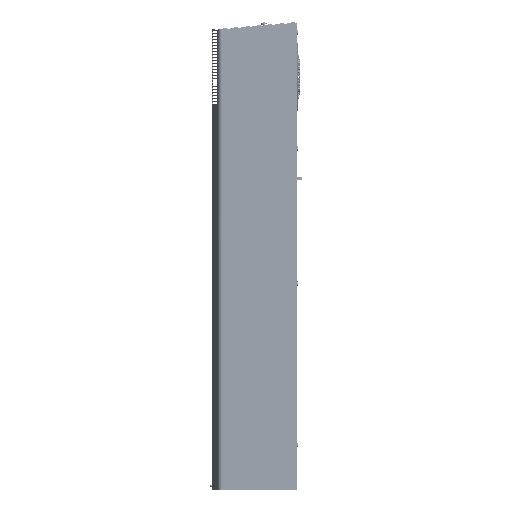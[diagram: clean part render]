
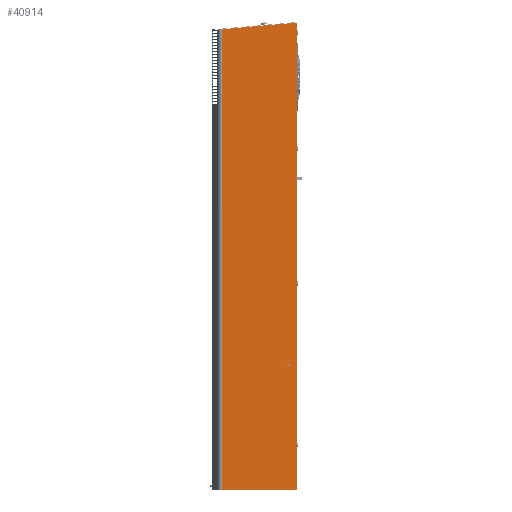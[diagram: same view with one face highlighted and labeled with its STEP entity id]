
A CAD part, left-side view. The second image highlights one B-rep face of the part: STEP entity #40914.
In plain terms, the highlighted planar face has unit normal (-1, 0, 0).
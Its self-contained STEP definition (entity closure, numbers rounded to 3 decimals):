
#8 = VECTOR ( 'NONE', #128325, 1000. ) ;
#3630 = CARTESIAN_POINT ( 'NONE',  ( -200., -221., 360. ) ) ;
#4363 = VERTEX_POINT ( 'NONE', #95691 ) ;
#7319 = CIRCLE ( 'NONE', #64749, 2.75 ) ;
#7858 = LINE ( 'NONE', #50112, #163948 ) ;
#7926 = VERTEX_POINT ( 'NONE', #125505 ) ;
#11208 = EDGE_LOOP ( 'NONE', ( #139082, #31287 ) ) ;
#11538 = DIRECTION ( 'NONE',  ( 0., 1., 0. ) ) ;
#16280 = DIRECTION ( 'NONE',  ( 1., 0., 0. ) ) ;
#18736 = ORIENTED_EDGE ( 'NONE', *, *, #63179, .F. ) ;
#20896 = LINE ( 'NONE', #130769, #95182 ) ;
#22971 = EDGE_CURVE ( 'NONE', #7926, #111479, #171610, .T. ) ;
#26229 = CARTESIAN_POINT ( 'NONE',  ( -200., -246., 1600. ) ) ;
#27755 = VERTEX_POINT ( 'NONE', #82649 ) ;
#28892 = PLANE ( 'NONE',  #55964 ) ;
#29143 = EDGE_CURVE ( 'NONE', #139465, #27755, #7858, .T. ) ;
#31287 = ORIENTED_EDGE ( 'NONE', *, *, #144099, .T. ) ;
#36601 = EDGE_CURVE ( 'NONE', #4363, #137218, #20896, .T. ) ;
#37612 = DIRECTION ( 'NONE',  ( 0., 0., -1. ) ) ;
#40914 = ADVANCED_FACE ( 'NONE', ( #134353, #175823 ), #28892, .F. ) ;
#44553 = CARTESIAN_POINT ( 'NONE',  ( -200., -30.175, 1600. ) ) ;
#46818 = DIRECTION ( 'NONE',  ( 0., 1., 0. ) ) ;
#50112 = CARTESIAN_POINT ( 'NONE',  ( -200., -256.112, 1349.161 ) ) ;
#54492 = VECTOR ( 'NONE', #37612, 1000. ) ;
#55964 = AXIS2_PLACEMENT_3D ( 'NONE', #26229, #16280, #97359 ) ;
#63179 = EDGE_CURVE ( 'NONE', #139465, #137218, #175480, .T. ) ;
#64205 = CARTESIAN_POINT ( 'NONE',  ( -200., -246., 0. ) ) ;
#64749 = AXIS2_PLACEMENT_3D ( 'NONE', #134932, #67324, #11538 ) ;
#67324 = DIRECTION ( 'NONE',  ( 1., 0., 0. ) ) ;
#73857 = DIRECTION ( 'NONE',  ( 1., 0., 0. ) ) ;
#75888 = EDGE_LOOP ( 'NONE', ( #136996, #124502, #153057, #18736 ) ) ;
#82221 = CARTESIAN_POINT ( 'NONE',  ( -200., -246., 1348.276 ) ) ;
#82649 = CARTESIAN_POINT ( 'NONE',  ( -200., -30.175, 1329.394 ) ) ;
#95182 = VECTOR ( 'NONE', #145195, 1000. ) ;
#95691 = CARTESIAN_POINT ( 'NONE',  ( -200., -30.175, 0. ) ) ;
#97359 = DIRECTION ( 'NONE',  ( 0., 1., 0. ) ) ;
#111479 = VERTEX_POINT ( 'NONE', #150290 ) ;
#124502 = ORIENTED_EDGE ( 'NONE', *, *, #132502, .T. ) ;
#125505 = CARTESIAN_POINT ( 'NONE',  ( -200., -218.25, 360. ) ) ;
#128325 = DIRECTION ( 'NONE',  ( 0., 0., -1. ) ) ;
#130345 = DIRECTION ( 'NONE',  ( 0., 0.996, -0.087 ) ) ;
#130769 = CARTESIAN_POINT ( 'NONE',  ( -200., -246., 0. ) ) ;
#131317 = AXIS2_PLACEMENT_3D ( 'NONE', #3630, #73857, #46818 ) ;
#132502 = EDGE_CURVE ( 'NONE', #27755, #4363, #168020, .T. ) ;
#134353 = FACE_BOUND ( 'NONE', #11208, .T. ) ;
#134932 = CARTESIAN_POINT ( 'NONE',  ( -200., -221., 360. ) ) ;
#136996 = ORIENTED_EDGE ( 'NONE', *, *, #29143, .T. ) ;
#137218 = VERTEX_POINT ( 'NONE', #64205 ) ;
#139082 = ORIENTED_EDGE ( 'NONE', *, *, #22971, .T. ) ;
#139465 = VERTEX_POINT ( 'NONE', #82221 ) ;
#144099 = EDGE_CURVE ( 'NONE', #111479, #7926, #7319, .T. ) ;
#145195 = DIRECTION ( 'NONE',  ( 0., -1., 0. ) ) ;
#150290 = CARTESIAN_POINT ( 'NONE',  ( -200., -223.75, 360. ) ) ;
#153057 = ORIENTED_EDGE ( 'NONE', *, *, #36601, .T. ) ;
#161920 = CARTESIAN_POINT ( 'NONE',  ( -200., -246., 1600. ) ) ;
#163948 = VECTOR ( 'NONE', #130345, 1000. ) ;
#168020 = LINE ( 'NONE', #44553, #8 ) ;
#171610 = CIRCLE ( 'NONE', #131317, 2.75 ) ;
#175480 = LINE ( 'NONE', #161920, #54492 ) ;
#175823 = FACE_OUTER_BOUND ( 'NONE', #75888, .T. ) ;
